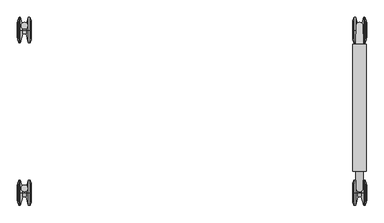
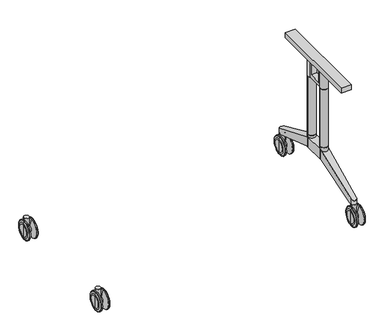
"""IFC4 building model written with IfcOpenShell, lengths in millimetres: furniture geometry."""

from ifc_helpers import new_model, si_unit, point, frame, frame_2d, origin, place, context, project, spatial, polyline, circle_curve, ellipse_curve, trimmed, segment, composite_curve, outline, extrude, source, transform, mapped, element, save
from ifc_brep_helpers import plane_surface, cylinder_surface, revolved_surface, advanced_brep


def furniture_c69c2a70(model_context):
    return source(origin(), model_context, "Body", "SolidModel", [
        advanced_brep(
        [(687.900346, 204.1135107, 49.9999988), (687.900346, 204.1135107, 19.8683152), (687.900346, 204.1135107, 80.1316828), (632.9003238, 204.1135107, 19.8683152), (632.9003238, 204.1135107, 49.9999988), (632.9003238, 204.1135107, 80.1316828), (637.2165382, 204.1135107, 2.051318), (634.4398166, 204.1135107, 10.381507), (634.4398166, 204.1135107, 89.6184911), (637.2165382, 204.1135107, 97.9486801), (644.900318, 204.1135107, -1.2e-06), (640.0625889, 204.1135107, -1.2e-06), (640.0625889, 204.1135107, 99.9999992), (644.900318, 204.1135107, 99.9999992), (652.9003021, 204.1135107, 35.0000003), (652.9003021, 204.1135107, 64.9999978), (667.9003676, 204.1135107, 35.0000003), (667.9003676, 204.1135107, 64.9999978), (675.9003517, 204.1135107, -1.2e-06), (675.9003517, 204.1135107, 99.9999992), (680.7380808, 204.1135107, -1.2e-06), (680.7380808, 204.1135107, 99.9999992), (686.3608532, 204.1135107, 10.381507), (683.5841316, 204.1135107, 2.051318), (683.5841316, 204.1135107, 97.9486801), (686.3608532, 204.1135107, 89.6184911)],
        [
            (0, 1),
            (1, 2, circle_curve(frame((687.900346, 204.1135107, 49.999999), z_axis=(1.0, 0.0, 0.0), x_axis=(0.0, 0.0, 1.0)), 30.1316838)),
            (2, 0),
            (2, 1, circle_curve(frame((687.900346, 204.1135107, 49.999999), z_axis=(1.0, 0.0, 0.0), x_axis=(0.0, 0.0, 1.0)), 30.1316838)),
            (3, 4),
            (4, 5),
            (5, 3, circle_curve(frame((632.9003238, 204.1135107, 49.999999), z_axis=(-1.0, 0.0, 0.0), x_axis=(0.0, 0.0, 1.0)), 30.1316838)),
            (3, 5, circle_curve(frame((632.9003238, 204.1135107, 49.999999), z_axis=(-1.0, 0.0, 0.0), x_axis=(0.0, 0.0, 1.0)), 30.1316838)),
            (6, 7),
            (7, 8, circle_curve(frame((634.4398166, 204.1135107, 49.999999), z_axis=(1.0, 0.0, 0.0), x_axis=(0.0, 0.0, 1.0)), 39.618492)),
            (8, 9),
            (9, 6, circle_curve(frame((637.2165382, 204.1135107, 49.999999), z_axis=(-1.0, 0.0, 0.0), x_axis=(0.0, 0.0, 1.0)), 47.948681)),
            (8, 7, circle_curve(frame((634.4398166, 204.1135107, 49.999999), z_axis=(1.0, 0.0, 0.0), x_axis=(0.0, 0.0, 1.0)), 39.618492)),
            (6, 9, circle_curve(frame((637.2165382, 204.1135107, 49.999999), z_axis=(-1.0, 0.0, 0.0), x_axis=(0.0, 0.0, 1.0)), 47.948681)),
            (10, 11),
            (11, 12, circle_curve(frame((640.0625889, 204.1135107, 49.999999), z_axis=(1.0, 0.0, 0.0), x_axis=(0.0, 0.0, 1.0)), 50.0000002)),
            (12, 13),
            (13, 10, circle_curve(frame((644.900318, 204.1135107, 49.999999), z_axis=(-1.0, 0.0, 0.0), x_axis=(0.0, 0.0, 1.0)), 50.0000002)),
            (12, 11, circle_curve(frame((640.0625889, 204.1135107, 49.999999), z_axis=(1.0, 0.0, 0.0), x_axis=(0.0, 0.0, 1.0)), 50.0000002)),
            (10, 13, circle_curve(frame((644.900318, 204.1135107, 49.999999), z_axis=(-1.0, 0.0, 0.0), x_axis=(0.0, 0.0, 1.0)), 50.0000002)),
            (14, 10),
            (13, 15),
            (15, 14, circle_curve(frame((652.9003021, 204.1135107, 49.999999), z_axis=(-1.0, 0.0, 0.0), x_axis=(0.0, 0.0, 1.0)), 14.9999987)),
            (14, 15, circle_curve(frame((652.9003021, 204.1135107, 49.999999), z_axis=(-1.0, 0.0, 0.0), x_axis=(0.0, 0.0, 1.0)), 14.9999987)),
            (16, 14),
            (15, 17),
            (17, 16, circle_curve(frame((667.9003676, 204.1135107, 49.999999), z_axis=(-1.0, 0.0, 0.0), x_axis=(0.0, 0.0, 1.0)), 14.9999987)),
            (16, 17, circle_curve(frame((667.9003676, 204.1135107, 49.999999), z_axis=(-1.0, 0.0, 0.0), x_axis=(0.0, 0.0, 1.0)), 14.9999987)),
            (18, 16),
            (17, 19),
            (19, 18, circle_curve(frame((675.9003517, 204.1135107, 49.999999), z_axis=(-1.0, 0.0, 0.0), x_axis=(0.0, 0.0, 1.0)), 50.0000002)),
            (18, 19, circle_curve(frame((675.9003517, 204.1135107, 49.999999), z_axis=(-1.0, 0.0, 0.0), x_axis=(0.0, 0.0, 1.0)), 50.0000002)),
            (20, 18),
            (19, 21),
            (21, 20, circle_curve(frame((680.7380808, 204.1135107, 49.999999), z_axis=(-1.0, 0.0, 0.0), x_axis=(0.0, 0.0, 1.0)), 50.0000002)),
            (20, 21, circle_curve(frame((680.7380808, 204.1135107, 49.999999), z_axis=(-1.0, 0.0, 0.0), x_axis=(0.0, 0.0, 1.0)), 50.0000002)),
            (22, 23),
            (23, 24, circle_curve(frame((683.5841316, 204.1135107, 49.999999), z_axis=(1.0, 0.0, 0.0), x_axis=(0.0, 0.0, 1.0)), 47.948681)),
            (24, 25),
            (25, 22, circle_curve(frame((686.3608532, 204.1135107, 49.999999), z_axis=(-1.0, 0.0, 0.0), x_axis=(0.0, 0.0, 1.0)), 39.618492)),
            (24, 23, circle_curve(frame((683.5841316, 204.1135107, 49.999999), z_axis=(1.0, 0.0, 0.0), x_axis=(0.0, 0.0, 1.0)), 47.948681)),
            (22, 25, circle_curve(frame((686.3608532, 204.1135107, 49.999999), z_axis=(-1.0, 0.0, 0.0), x_axis=(0.0, 0.0, 1.0)), 39.618492)),
            (7, 3, circle_curve(frame((662.9003238, 204.1135107, 19.8683152), z_axis=(0.0, 1.0000000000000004, 0.0), x_axis=(-1.0000000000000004, 0.0, 0.0)), 30.0)),
            (5, 8, circle_curve(frame((662.9003238, 204.1135107, 80.1316828), z_axis=(0.0, 1.0000000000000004, 0.0), x_axis=(-1.0000000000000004, 0.0, 0.0)), 30.0)),
            (11, 6, circle_curve(frame((640.0625889, 204.1135107, 2.9999988), z_axis=(0.0, 1.0000000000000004, 0.0), x_axis=(-1.0000000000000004, 0.0, 0.0)), 3.0)),
            (9, 12, circle_curve(frame((640.0625889, 204.1135107, 96.9999992), z_axis=(0.0, 1.0000000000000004, 0.0), x_axis=(-1.0000000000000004, 0.0, 0.0)), 3.0)),
            (23, 20, circle_curve(frame((680.7380808, 204.1135107, 2.9999988), z_axis=(0.0, 1.0000000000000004, 0.0), x_axis=(-1.0000000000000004, 0.0, 0.0)), 3.0)),
            (21, 24, circle_curve(frame((680.7380808, 204.1135107, 96.9999992), z_axis=(0.0, 1.0000000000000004, 0.0), x_axis=(-1.0000000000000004, 0.0, 0.0)), 3.0)),
            (1, 22, circle_curve(frame((657.900346, 204.1135107, 19.8683152), z_axis=(0.0, 1.0000000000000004, 0.0), x_axis=(-1.0000000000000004, 0.0, 0.0)), 30.0)),
            (25, 2, circle_curve(frame((657.900346, 204.1135107, 80.1316828), z_axis=(0.0, 1.0000000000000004, 0.0), x_axis=(-1.0000000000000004, 0.0, 0.0)), 30.0)),
        ],
        [
            plane_surface(frame((687.900346, 204.1135107, 49.999999), z_axis=(1.0, 0.0, 0.0), x_axis=(0.0, 0.0, 1.0))),
            plane_surface(frame((632.9003238, 204.1135107, 49.999999), z_axis=(-1.0, 0.0, 0.0), x_axis=(0.0, 0.0, 1.0))),
            revolved_surface(polyline([(634.4398166, 204.1135107, 89.6184911), (637.2165382, 204.1135107, 97.9486801)]), (699.4660385, 204.1135107, 49.999999), (1.0000000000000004, 0.0, 0.0)),
            cylinder_surface(frame((699.4660385, 204.1135107, 49.999999), z_axis=(1.0000000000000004, 0.0, 0.0), x_axis=(0.0, 0.0, 1.0)), 50.0000002),
            revolved_surface(polyline([(644.900318, 204.1135107, 99.9999992), (652.9003021, 204.1135107, 64.9999978)]), (699.4660385, 204.1135107, 49.999999), (1.0000000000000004, 0.0, 0.0)),
            cylinder_surface(frame((699.4660385, 204.1135107, 49.999999), z_axis=(1.0000000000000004, 0.0, 0.0), x_axis=(0.0, 0.0, 1.0)), 14.9999987),
            revolved_surface(polyline([(667.9003676, 204.1135107, 64.9999978), (675.9003517, 204.1135107, 99.9999992)]), (699.4660385, 204.1135107, 49.999999), (1.0000000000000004, 0.0, 0.0)),
            revolved_surface(polyline([(683.5841316, 204.1135107, 97.9486801), (686.3608532, 204.1135107, 89.6184911)]), (699.4660385, 204.1135107, 49.999999), (1.0000000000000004, 0.0, 0.0)),
            revolved_surface(trimmed(ellipse_curve(frame((662.9003238, 204.1135107, 80.1316828), z_axis=(0.0, 1.0000000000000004, 0.0), x_axis=(-1.0000000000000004, 0.0, 0.0)), 30.0, 30.0), [point((632.9003238, 204.1135107, 80.1316828))], [point((634.4398166, 204.1135107, 89.6184911))], True, "CARTESIAN"), (699.4660385, 204.1135107, 49.999999), (1.0000000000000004, 0.0, 0.0)),
            revolved_surface(trimmed(ellipse_curve(frame((640.0625889, 204.1135107, 96.9999992), z_axis=(0.0, 1.0000000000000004, 0.0), x_axis=(-1.0000000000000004, 0.0, 0.0)), 3.0, 3.0), [point((637.2165382, 204.1135107, 97.9486801))], [point((640.0625889, 204.1135107, 99.9999992))], True, "CARTESIAN"), (699.4660385, 204.1135107, 49.999999), (1.0000000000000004, 0.0, 0.0)),
            revolved_surface(trimmed(ellipse_curve(frame((680.7380808, 204.1135107, 96.9999992), z_axis=(0.0, 1.0000000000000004, 0.0), x_axis=(-1.0000000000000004, 0.0, 0.0)), 3.0, 3.0), [point((680.7380808, 204.1135107, 99.9999992))], [point((683.5841316, 204.1135107, 97.9486801))], True, "CARTESIAN"), (699.4660385, 204.1135107, 49.999999), (1.0000000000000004, 0.0, 0.0)),
            revolved_surface(trimmed(ellipse_curve(frame((657.900346, 204.1135107, 80.1316828), z_axis=(0.0, 1.0000000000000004, 0.0), x_axis=(-1.0000000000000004, 0.0, 0.0)), 30.0, 30.0), [point((686.3608532, 204.1135107, 89.6184911))], [point((687.900346, 204.1135107, 80.1316828))], True, "CARTESIAN"), (699.4660385, 204.1135107, 49.999999), (1.0000000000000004, 0.0, 0.0)),
        ],
        [
            (0, [[1, 2, 3]]),
            (0, [[-3, 4, -1]]),
            (1, [[5, 6, 7]]),
            (1, [[-6, -5, 8]]),
            (2, [[9, 10, 11, 12]]),
            (2, [[-11, 13, -9, 14]]),
            (3, [[15, 16, 17, 18]]),
            (3, [[-17, 19, -15, 20]]),
            (4, [[21, -18, 22, 23]]),
            (4, [[-22, -20, -21, 24]]),
            (5, [[25, -23, 26, 27]]),
            (5, [[-26, -24, -25, 28]]),
            (6, [[29, -27, 30, 31]]),
            (6, [[-30, -28, -29, 32]]),
            (3, [[33, -31, 34, 35]]),
            (3, [[-34, -32, -33, 36]]),
            (7, [[37, 38, 39, 40]]),
            (7, [[-39, 41, -37, 42]]),
            (8, [[43, -7, 44, -10]]),
            (8, [[-44, -8, -43, -13]]),
            (9, [[45, -12, 46, -16]]),
            (9, [[-46, -14, -45, -19]]),
            (10, [[47, -35, 48, -38]]),
            (10, [[-48, -36, -47, -41]]),
            (11, [[49, -40, 50, -2]]),
            (11, [[-50, -42, -49, -4]]),
        ],
    ),
        extrude(outline(composite_curve([segment(trimmed(circle_curve(frame_2d((660.4003349, 221.5135103)), 13.1), [point((673.5003349, 221.5135103))], [point((647.3003349, 221.5135103))], False, "CARTESIAN"), True, "CONTINUOUS"), segment(trimmed(circle_curve(frame_2d((660.4003349, 221.5135103)), 13.1), [point((647.3003349, 221.5135103))], [point((673.5003349, 221.5135103))], False, "CARTESIAN"), True, "CONTINUOUS")], self_intersect=False)), frame((0.0, 0.0, 50.0), z_axis=(0.0, 0.0, 1.0), x_axis=(1.0, 0.0, 0.0)), (0.0, 0.0, 1.0), 55.0),
        advanced_brep(
        [(632.9003238, -436.9185854, 49.9999992), (632.9003238, -436.9185854, 80.1316828), (632.9003238, -436.9185854, 19.8683152), (687.900346, -436.9185854, 19.8683152), (687.900346, -436.9185854, 80.1316828), (687.900346, -436.9185854, 49.9999992), (683.5841316, -436.9185854, 2.051318), (683.5841316, -436.9185854, 97.9486801), (686.3608532, -436.9185854, 89.6184911), (686.3608532, -436.9185854, 10.381507), (675.9003517, -436.9185854, -1.2e-06), (675.9003517, -436.9185854, 99.9999992), (680.7380808, -436.9185854, 99.9999992), (680.7380808, -436.9185854, -1.2e-06), (667.9003676, -436.9185854, 35.0000003), (667.9003676, -436.9185854, 64.9999978), (652.9003021, -436.9185854, 35.0000003), (652.9003021, -436.9185854, 64.9999978), (644.900318, -436.9185854, -1.2e-06), (644.900318, -436.9185854, 99.9999992), (640.0625889, -436.9185854, -1.2e-06), (640.0625889, -436.9185854, 99.9999992), (634.4398166, -436.9185854, 10.381507), (634.4398166, -436.9185854, 89.6184911), (637.2165382, -436.9185854, 97.9486801), (637.2165382, -436.9185854, 2.051318)],
        [
            (0, 1),
            (1, 2, circle_curve(frame((632.9003238, -436.9185854, 49.999999), z_axis=(-1.0, 0.0, 0.0), x_axis=(0.0, 0.0, 1.0)), 30.1316838)),
            (2, 0),
            (2, 1, circle_curve(frame((632.9003238, -436.9185854, 49.999999), z_axis=(-1.0, 0.0, 0.0), x_axis=(0.0, 0.0, 1.0)), 30.1316838)),
            (3, 4, circle_curve(frame((687.900346, -436.9185854, 49.999999), z_axis=(1.0, 0.0, 0.0), x_axis=(0.0, 0.0, 1.0)), 30.1316838)),
            (4, 5),
            (5, 3),
            (4, 3, circle_curve(frame((687.900346, -436.9185854, 49.999999), z_axis=(1.0, 0.0, 0.0), x_axis=(0.0, 0.0, 1.0)), 30.1316838)),
            (6, 7, circle_curve(frame((683.5841316, -436.9185854, 49.999999), z_axis=(1.0, 0.0, 0.0), x_axis=(0.0, 0.0, 1.0)), 47.948681)),
            (7, 8),
            (8, 9, circle_curve(frame((686.3608532, -436.9185854, 49.999999), z_axis=(-1.0, 0.0, 0.0), x_axis=(0.0, 0.0, 1.0)), 39.618492)),
            (9, 6),
            (7, 6, circle_curve(frame((683.5841316, -436.9185854, 49.999999), z_axis=(1.0, 0.0, 0.0), x_axis=(0.0, 0.0, 1.0)), 47.948681)),
            (9, 8, circle_curve(frame((686.3608532, -436.9185854, 49.999999), z_axis=(-1.0, 0.0, 0.0), x_axis=(0.0, 0.0, 1.0)), 39.618492)),
            (10, 11, circle_curve(frame((675.9003517, -436.9185854, 49.999999), z_axis=(1.0, 0.0, 0.0), x_axis=(0.0, 0.0, 1.0)), 50.0000002)),
            (11, 12),
            (12, 13, circle_curve(frame((680.7380808, -436.9185854, 49.999999), z_axis=(-1.0, 0.0, 0.0), x_axis=(0.0, 0.0, 1.0)), 50.0000002)),
            (13, 10),
            (11, 10, circle_curve(frame((675.9003517, -436.9185854, 49.999999), z_axis=(1.0, 0.0, 0.0), x_axis=(0.0, 0.0, 1.0)), 50.0000002)),
            (13, 12, circle_curve(frame((680.7380808, -436.9185854, 49.999999), z_axis=(-1.0, 0.0, 0.0), x_axis=(0.0, 0.0, 1.0)), 50.0000002)),
            (14, 15, circle_curve(frame((667.9003676, -436.9185854, 49.999999), z_axis=(1.0, 0.0, 0.0), x_axis=(0.0, 0.0, 1.0)), 14.9999987)),
            (15, 11),
            (10, 14),
            (15, 14, circle_curve(frame((667.9003676, -436.9185854, 49.999999), z_axis=(1.0, 0.0, 0.0), x_axis=(0.0, 0.0, 1.0)), 14.9999987)),
            (16, 17, circle_curve(frame((652.9003021, -436.9185854, 49.999999), z_axis=(1.0, 0.0, 0.0), x_axis=(0.0, 0.0, 1.0)), 14.9999987)),
            (17, 15),
            (14, 16),
            (17, 16, circle_curve(frame((652.9003021, -436.9185854, 49.999999), z_axis=(1.0, 0.0, 0.0), x_axis=(0.0, 0.0, 1.0)), 14.9999987)),
            (18, 19, circle_curve(frame((644.900318, -436.9185854, 49.999999), z_axis=(1.0, 0.0, 0.0), x_axis=(0.0, 0.0, 1.0)), 50.0000002)),
            (19, 17),
            (16, 18),
            (19, 18, circle_curve(frame((644.900318, -436.9185854, 49.999999), z_axis=(1.0, 0.0, 0.0), x_axis=(0.0, 0.0, 1.0)), 50.0000002)),
            (20, 21, circle_curve(frame((640.0625889, -436.9185854, 49.999999), z_axis=(1.0, 0.0, 0.0), x_axis=(0.0, 0.0, 1.0)), 50.0000002)),
            (21, 19),
            (18, 20),
            (21, 20, circle_curve(frame((640.0625889, -436.9185854, 49.999999), z_axis=(1.0, 0.0, 0.0), x_axis=(0.0, 0.0, 1.0)), 50.0000002)),
            (22, 23, circle_curve(frame((634.4398166, -436.9185854, 49.999999), z_axis=(1.0, 0.0, 0.0), x_axis=(0.0, 0.0, 1.0)), 39.618492)),
            (23, 24),
            (24, 25, circle_curve(frame((637.2165382, -436.9185854, 49.999999), z_axis=(-1.0, 0.0, 0.0), x_axis=(0.0, 0.0, 1.0)), 47.948681)),
            (25, 22),
            (23, 22, circle_curve(frame((634.4398166, -436.9185854, 49.999999), z_axis=(1.0, 0.0, 0.0), x_axis=(0.0, 0.0, 1.0)), 39.618492)),
            (25, 24, circle_curve(frame((637.2165382, -436.9185854, 49.999999), z_axis=(-1.0, 0.0, 0.0), x_axis=(0.0, 0.0, 1.0)), 47.948681)),
            (8, 4, circle_curve(frame((657.900346, -436.9185854, 80.1316828), z_axis=(0.0, 1.0, 0.0), x_axis=(1.0, 0.0, 0.0)), 30.0)),
            (3, 9, circle_curve(frame((657.900346, -436.9185854, 19.8683152), z_axis=(0.0, 1.0, 0.0), x_axis=(1.0, 0.0, 0.0)), 30.0)),
            (12, 7, circle_curve(frame((680.7380808, -436.9185854, 96.9999992), z_axis=(0.0, 1.0, 0.0), x_axis=(1.0, 0.0, 0.0)), 3.0)),
            (6, 13, circle_curve(frame((680.7380808, -436.9185854, 2.9999988), z_axis=(0.0, 1.0, 0.0), x_axis=(1.0, 0.0, 0.0)), 3.0)),
            (24, 21, circle_curve(frame((640.0625889, -436.9185854, 96.9999992), z_axis=(0.0, 1.0, 0.0), x_axis=(1.0, 0.0, 0.0)), 3.0)),
            (20, 25, circle_curve(frame((640.0625889, -436.9185854, 2.9999988), z_axis=(0.0, 1.0, 0.0), x_axis=(1.0, 0.0, 0.0)), 3.0)),
            (1, 23, circle_curve(frame((662.9003238, -436.9185854, 80.1316828), z_axis=(0.0, 1.0, 0.0), x_axis=(1.0, 0.0, 0.0)), 30.0)),
            (22, 2, circle_curve(frame((662.9003238, -436.9185854, 19.8683152), z_axis=(0.0, 1.0, 0.0), x_axis=(1.0, 0.0, 0.0)), 30.0)),
        ],
        [
            plane_surface(frame((632.9003238, -436.9185854, 49.999999), z_axis=(-1.0, 0.0, 0.0), x_axis=(0.0, 0.0, 1.0))),
            plane_surface(frame((687.900346, -436.9185854, 49.999999), z_axis=(1.0, 0.0, 0.0), x_axis=(0.0, 0.0, 1.0))),
            revolved_surface(polyline([(686.3608532, -436.9185854, 89.6184911), (683.5841316, -436.9185854, 97.9486801)]), (621.3346312, -436.9185854, 49.999999), (-1.0, 0.0, 0.0)),
            cylinder_surface(frame((621.3346312, -436.9185854, 49.999999), z_axis=(-1.0, 0.0, 0.0), x_axis=(0.0, 0.0, 1.0)), 50.0000002),
            revolved_surface(polyline([(675.9003517, -436.9185854, 99.9999992), (667.9003676, -436.9185854, 64.9999978)]), (621.3346312, -436.9185854, 49.999999), (-1.0, 0.0, 0.0)),
            cylinder_surface(frame((621.3346312, -436.9185854, 49.999999), z_axis=(-1.0, 0.0, 0.0), x_axis=(0.0, 0.0, 1.0)), 14.9999987),
            revolved_surface(polyline([(652.9003021, -436.9185854, 64.9999978), (644.900318, -436.9185854, 99.9999992)]), (621.3346312, -436.9185854, 49.999999), (-1.0, 0.0, 0.0)),
            revolved_surface(polyline([(637.2165382, -436.9185854, 97.9486801), (634.4398166, -436.9185854, 89.6184911)]), (621.3346312, -436.9185854, 49.999999), (-1.0, 0.0, 0.0)),
            revolved_surface(trimmed(ellipse_curve(frame((657.900346, -436.9185854, 80.1316828), z_axis=(0.0, -1.0, 0.0), x_axis=(1.0, 0.0, 0.0)), 30.0, 30.0), [point((687.900346, -436.9185854, 80.1316828))], [point((686.3608532, -436.9185854, 89.6184911))], True, "CARTESIAN"), (621.3346312, -436.9185854, 49.999999), (-1.0, 0.0, 0.0)),
            revolved_surface(trimmed(ellipse_curve(frame((680.7380808, -436.9185854, 96.9999992), z_axis=(0.0, -1.0, 0.0), x_axis=(1.0, 0.0, 0.0)), 3.0, 3.0), [point((683.5841316, -436.9185854, 97.9486801))], [point((680.7380808, -436.9185854, 99.9999992))], True, "CARTESIAN"), (621.3346312, -436.9185854, 49.999999), (-1.0, 0.0, 0.0)),
            revolved_surface(trimmed(ellipse_curve(frame((640.0625889, -436.9185854, 96.9999992), z_axis=(0.0, -1.0, 0.0), x_axis=(1.0, 0.0, 0.0)), 3.0, 3.0), [point((640.0625889, -436.9185854, 99.9999992))], [point((637.2165382, -436.9185854, 97.9486801))], True, "CARTESIAN"), (621.3346312, -436.9185854, 49.999999), (-1.0, 0.0, 0.0)),
            revolved_surface(trimmed(ellipse_curve(frame((662.9003238, -436.9185854, 80.1316828), z_axis=(0.0, -1.0, 0.0), x_axis=(1.0, 0.0, 0.0)), 30.0, 30.0), [point((634.4398166, -436.9185854, 89.6184911))], [point((632.9003238, -436.9185854, 80.1316828))], True, "CARTESIAN"), (621.3346312, -436.9185854, 49.999999), (-1.0, 0.0, 0.0)),
        ],
        [
            (0, [[1, 2, 3]]),
            (0, [[-3, 4, -1]]),
            (1, [[5, 6, 7]]),
            (1, [[8, -7, -6]]),
            (2, [[9, 10, 11, 12]]),
            (2, [[13, -12, 14, -10]]),
            (3, [[15, 16, 17, 18]]),
            (3, [[19, -18, 20, -16]]),
            (4, [[21, 22, -15, 23]]),
            (4, [[24, -23, -19, -22]]),
            (5, [[25, 26, -21, 27]]),
            (5, [[28, -27, -24, -26]]),
            (6, [[29, 30, -25, 31]]),
            (6, [[32, -31, -28, -30]]),
            (3, [[33, 34, -29, 35]]),
            (3, [[36, -35, -32, -34]]),
            (7, [[37, 38, 39, 40]]),
            (7, [[41, -40, 42, -38]]),
            (8, [[-11, 43, -5, 44]]),
            (8, [[-14, -44, -8, -43]]),
            (9, [[-17, 45, -9, 46]]),
            (9, [[-20, -46, -13, -45]]),
            (10, [[-39, 47, -33, 48]]),
            (10, [[-42, -48, -36, -47]]),
            (11, [[-2, 49, -37, 50]]),
            (11, [[-4, -50, -41, -49]]),
        ],
    ),
        extrude(outline(composite_curve([segment(trimmed(circle_curve(frame_2d((660.4003349, -419.5185858)), 13.1), [point((647.3003349, -419.5185858))], [point((673.5003349, -419.5185858))], False, "CARTESIAN"), True, "CONTINUOUS"), segment(trimmed(circle_curve(frame_2d((660.4003349, -419.5185858)), 13.1), [point((673.5003349, -419.5185858))], [point((647.3003349, -419.5185858))], False, "CARTESIAN"), True, "CONTINUOUS")], self_intersect=False)), frame((0.0, 0.0, 50.0), z_axis=(0.0, 0.0, 1.0), x_axis=(1.0, 0.0, 0.0)), (0.0, 0.0, 1.0), 55.0),
        extrude(outline(composite_curve([segment(trimmed(circle_curve(frame_2d((660.4, -154.0488451)), 20.0), [point((640.4, -154.0488451))], [point((680.4, -154.0488451))], False, "CARTESIAN"), True, "CONTINUOUS"), segment(trimmed(circle_curve(frame_2d((660.4, -154.0488451)), 20.0), [point((680.4, -154.0488451))], [point((640.4, -154.0488451))], False, "CARTESIAN"), True, "CONTINUOUS")], self_intersect=False)), frame((0.0, 0.0, 193.3080085), z_axis=(0.0, 0.0, 1.0), x_axis=(1.0, 0.0, 0.0)), (0.0, 0.0, 1.0), 68.8536941),
        extrude(outline(composite_curve([segment(trimmed(circle_curve(frame_2d((660.4, -44.0488461)), 20.0), [point((640.4, -44.0488461))], [point((680.4, -44.0488461))], False, "CARTESIAN"), True, "CONTINUOUS"), segment(trimmed(circle_curve(frame_2d((660.4, -44.0488461)), 20.0), [point((680.4, -44.0488461))], [point((640.4, -44.0488461))], False, "CARTESIAN"), True, "CONTINUOUS")], self_intersect=False)), frame((0.0, 0.0, 193.3080085), z_axis=(0.0, 0.0, 1.0), x_axis=(1.0, 0.0, 0.0)), (0.0, 0.0, 1.0), 68.8536941),
        extrude(outline(composite_curve([segment(trimmed(circle_curve(frame_2d((660.4, -154.0488451)), 20.0), [point((640.4, -154.0488451))], [point((680.4, -154.0488451))], False, "CARTESIAN"), True, "CONTINUOUS"), segment(trimmed(circle_curve(frame_2d((660.4, -154.0488451)), 20.0), [point((680.4, -154.0488451))], [point((640.4, -154.0488451))], False, "CARTESIAN"), True, "CONTINUOUS")], self_intersect=False)), frame((0.0, 0.0, 262.1617027), z_axis=(0.0, 0.0, 1.0), x_axis=(1.0, 0.0, 0.0)), (0.0, 0.0, 1.0), 318.0882973),
        extrude(outline(composite_curve([segment(trimmed(circle_curve(frame_2d((660.4, -44.0488461)), 20.0), [point((640.4, -44.0488461))], [point((680.4, -44.0488461))], False, "CARTESIAN"), True, "CONTINUOUS"), segment(trimmed(circle_curve(frame_2d((660.4, -44.0488461)), 20.0), [point((680.4, -44.0488461))], [point((640.4, -44.0488461))], False, "CARTESIAN"), True, "CONTINUOUS")], self_intersect=False)), frame((0.0, 0.0, 262.1617027), z_axis=(0.0, 0.0, 1.0), x_axis=(1.0, 0.0, 0.0)), (0.0, 0.0, 1.0), 318.0882973),
        extrude(outline(polyline([(686.4000118, 147.9511612), (686.4000118, -352.0488426), (634.3999882, -352.0488426), (634.3999882, 147.9511612), (686.4000118, 147.9511612)])), frame((0.0, 0.0, 676.2500168), z_axis=(0.0, 0.0, 1.0), x_axis=(1.0, 0.0, 0.0)), (0.0, 0.0, 1.0), 27.9999624),
        advanced_brep(
        [(645.4001238, -140.8200278, 676.2500168), (675.4001095, -140.8201331, 676.2500168), (675.4001095, -134.0488456, 676.2500168), (645.4001238, -134.0488456, 676.2500168), (675.4001095, -57.2775581, 676.2500168), (645.4001238, -57.2776634, 676.2500168), (645.4001238, -64.0488456, 676.2500168), (675.4001095, -64.0488456, 676.2500168), (645.4001238, -57.2776634, 580.25), (675.4001095, -57.2775581, 580.25), (675.4001095, -140.8201331, 580.25), (645.4001238, -140.8200278, 580.25), (645.4001238, -134.0488456, 598.2500176), (645.4001238, -64.0488456, 598.2500176), (675.4001095, -64.0488456, 598.2500176), (675.4001095, -134.0488456, 598.2500176)],
        [
            (0, 1, circle_curve(frame((660.4000702, -154.0488451, 676.2500168), z_axis=(0.0, 0.0, 1.0), x_axis=(1.0, 0.0, 0.0)), 20.0)),
            (1, 2),
            (2, 3),
            (3, 0),
            (4, 5, circle_curve(frame((660.4000702, -44.0488461, 676.2500168), z_axis=(0.0, 0.0, 1.0), x_axis=(1.0, 0.0, 0.0)), 20.0)),
            (5, 6),
            (6, 7),
            (7, 4),
            (8, 9, circle_curve(frame((660.4000702, -44.0488461, 580.25), z_axis=(0.0, 0.0, -1.0), x_axis=(1.0, 0.0, 0.0)), 20.0)),
            (9, 10),
            (10, 11, circle_curve(frame((660.4000702, -154.0488451, 580.25), z_axis=(0.0, 0.0, -1.0), x_axis=(1.0, 0.0, 0.0)), 20.0)),
            (11, 8),
            (11, 0),
            (3, 12),
            (12, 13),
            (13, 6),
            (5, 8),
            (10, 1),
            (9, 4),
            (7, 14),
            (14, 15),
            (15, 2),
            (15, 12),
            (14, 13),
        ],
        [
            plane_surface(frame((645.4001238, -140.8200278, 676.2500168), z_axis=(0.0, 0.0, 1.0), x_axis=(0.0, -1.0, 0.0))),
            plane_surface(frame((645.4001238, -140.8200278, 580.25), z_axis=(0.0, 0.0, -1.0), x_axis=(0.0, 1.0, 0.0))),
            plane_surface(frame((645.4001238, -57.2776634, 676.2500168), z_axis=(-1.0, 0.0, 0.0), x_axis=(0.0, 0.0, -1.0))),
            cylinder_surface(frame((660.4000702, -154.0488451, 580.25), z_axis=(0.0, 0.0, 1.0), x_axis=(1.0, 0.0, 0.0)), 20.0),
            plane_surface(frame((675.4001095, -140.8201331, 676.2500168), z_axis=(1.0, 0.0, 0.0), x_axis=(0.0, 0.0, -1.0))),
            cylinder_surface(frame((660.4000702, -44.0488461, 580.25), z_axis=(0.0, 0.0, 1.0), x_axis=(1.0, 0.0, 0.0)), 20.0),
            plane_surface(frame((675.4001095, -134.0488456, 676.2500168), z_axis=(0.0, 1.0, 0.0), x_axis=(-1.0, 0.0, 0.0))),
            plane_surface(frame((675.4001095, -134.0488456, 598.2500176), z_axis=(0.0, 0.0, 1.0), x_axis=(-1.0, 0.0, 0.0))),
            plane_surface(frame((675.4001095, -64.0488456, 598.2500176), z_axis=(0.0, -1.0, 0.0), x_axis=(-1.0, 0.0, 0.0))),
        ],
        [
            (0, [[1, 2, 3, 4]]),
            (0, [[5, 6, 7, 8]]),
            (1, [[9, 10, 11, 12]]),
            (2, [[-12, 13, -4, 14, 15, 16, -6, 17]]),
            (3, [[-1, -13, -11, 18]]),
            (4, [[-10, 19, -8, 20, 21, 22, -2, -18]]),
            (5, [[-5, -19, -9, -17]]),
            (6, [[23, -14, -3, -22]]),
            (7, [[-23, -21, 24, -15]]),
            (8, [[-24, -20, -7, -16]]),
        ],
    ),
        advanced_brep(
        [(680.3999818, -154.0488451, 248.3080085), (680.3999818, -44.0488461, 248.3080085), (640.3999818, -44.0488461, 248.3080085), (640.3999818, -154.0488451, 248.3080085), (640.3999818, -44.0488461, 193.3080085), (640.3999818, -154.0488451, 193.3080085), (680.3999818, -154.0488451, 193.3080085), (680.3999818, -44.0488461, 193.3080085), (673.8728951, 208.4135103, 105.0), (646.927103, 208.4135103, 105.0), (647.2737706, 221.8222582, 105.0), (673.5262294, 221.8222564, 105.0), (647.2737706, 221.8222582, 133.4205559), (673.5262294, 221.8222564, 133.4205567), (680.1999588, -36.3121196, 193.3080085), (640.6000059, -36.3121196, 193.3080085), (673.5262294, -419.9199475, 133.4205567), (647.2737706, -419.9199493, 133.4205559), (673.5262294, -419.9199475, 105.0), (673.8728951, -406.5112014, 105.0), (680.1999588, -161.7855715, 193.3080085), (647.2737706, -419.9199493, 105.0), (640.6000059, -161.7855715, 193.3080085), (646.927103, -406.5112014, 105.0)],
        [
            (0, 1),
            (1, 2),
            (2, 3),
            (3, 0),
            (2, 4),
            (4, 5),
            (5, 3),
            (0, 6),
            (6, 7),
            (7, 1),
            (8, 9),
            (9, 10),
            (10, 11, circle_curve(frame((660.4, 221.4828948, 105.0), z_axis=(0.0, 0.0, -1.0), x_axis=(1.0, 0.0, 0.0)), 13.1306156)),
            (11, 8),
            (12, 2),
            (1, 13),
            (13, 12, ellipse_curve(frame((660.4, 221.4828948, 133.5672007), z_axis=(0.0, 0.3966672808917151, 0.9179624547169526), x_axis=(0.0, 0.9179624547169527, -0.39666728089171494)), 14.3040878, 13.1306156)),
            (8, 14),
            (14, 15),
            (15, 9),
            (16, 0),
            (3, 17),
            (17, 16, ellipse_curve(frame((660.4, -419.5805859, 133.5672007), z_axis=(0.0, -0.3966672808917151, 0.9179624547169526), x_axis=(0.0, -0.9179624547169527, -0.39666728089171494)), 14.3040878, 13.1306156)),
            (16, 18),
            (18, 19),
            (19, 20),
            (20, 6),
            (17, 21),
            (21, 18, circle_curve(frame((660.4, -419.5805859, 105.0), z_axis=(0.0, 0.0, 1.0), x_axis=(1.0, 0.0, 0.0)), 13.1306156)),
            (5, 22),
            (22, 23),
            (23, 21),
            (12, 10),
            (15, 4),
            (13, 11),
            (7, 14),
            (23, 19),
            (22, 20),
        ],
        [
            plane_surface(frame((680.3999818, -44.0488461, 248.3080085), z_axis=(0.0, 0.0, 1.0), x_axis=(0.0, 1.0, 0.0))),
            plane_surface(frame((640.3999818, -44.0488461, 248.3080085), z_axis=(-1.0, 0.0, 0.0), x_axis=(0.0, 0.0, -1.0))),
            plane_surface(frame((680.3999818, -154.0488451, 248.3080085), z_axis=(1.0, 0.0, 0.0), x_axis=(0.0, 0.0, -1.0))),
            plane_surface(frame((681.7794585, 208.4135103, 105.0), z_axis=(0.0, 0.0, -1.0), x_axis=(-1.0, 0.0, 0.0))),
            plane_surface(frame((681.7794585, 235.9511544, 127.3152182), z_axis=(0.0, 0.3966672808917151, 0.9179624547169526), x_axis=(-1.0, 0.0, 0.0))),
            plane_surface(frame((681.7794585, -36.3121196, 193.3080085), z_axis=(0.0, -0.3394229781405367, -0.9406338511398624), x_axis=(-1.0, 0.0, 0.0))),
            plane_surface(frame((681.7794585, -154.0488451, 248.3080085), z_axis=(0.0, -0.3966672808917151, 0.9179624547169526), x_axis=(-1.0, 0.0, 0.0))),
            plane_surface(frame((680.3999818, -154.0488451, 249.0000084), z_axis=(0.9996659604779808, -0.025845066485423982, 0.0), x_axis=(0.0, 0.0, -1.0))),
            cylinder_surface(frame((660.4, -419.5805859, 90.0000025), z_axis=(0.0, 0.0, -1.0), x_axis=(1.0, 0.0, 0.0)), 13.1306156),
            plane_surface(frame((647.2737706, -419.9199493, 249.0000084), z_axis=(-0.9996659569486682, -0.025845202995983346, 0.0), x_axis=(0.0, 0.0, -1.0))),
            plane_surface(frame((640.3999818, -44.0488461, 249.0000084), z_axis=(-0.9996659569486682, 0.025845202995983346, 0.0), x_axis=(0.0, 0.0, -1.0))),
            cylinder_surface(frame((660.4, 221.4828948, 0.0), z_axis=(0.0, 0.0, -1.0), x_axis=(1.0, 0.0, 0.0)), 13.1306156),
            plane_surface(frame((673.5262294, 221.8222564, 249.0000084), z_axis=(0.9996659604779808, 0.025845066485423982, 0.0), x_axis=(0.0, 0.0, -1.0))),
            plane_surface(frame((681.7794585, -434.0488456, 105.0), z_axis=(0.0, 0.0, -1.0), x_axis=(-1.0, 0.0, 0.0))),
            plane_surface(frame((681.7794585, -406.5112014, 105.0), z_axis=(0.0, 0.3394229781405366, -0.9406338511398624), x_axis=(-1.0, 0.0, 0.0))),
            plane_surface(frame((681.7794585, -44.0488461, 193.3080085), z_axis=(0.0, 0.0, -1.0), x_axis=(-1.0, 0.0, 0.0))),
        ],
        [
            (0, [[1, 2, 3, 4]]),
            (1, [[-3, 5, 6, 7]]),
            (2, [[-1, 8, 9, 10]]),
            (3, [[11, 12, 13, 14]]),
            (4, [[15, -2, 16, 17]]),
            (5, [[-11, 18, 19, 20]]),
            (6, [[21, -4, 22, 23]]),
            (7, [[24, 25, 26, 27, -8, -21]]),
            (8, [[-24, -23, 28, 29]]),
            (9, [[-28, -22, -7, 30, 31, 32]]),
            (10, [[33, -12, -20, 34, -5, -15]]),
            (11, [[-33, -17, 35, -13]]),
            (12, [[-35, -16, -10, 36, -18, -14]]),
            (13, [[37, -25, -29, -32]]),
            (14, [[-37, -31, 38, -26]]),
            (15, [[-19, -36, -9, -27, -38, -30, -6, -34]]),
        ],
    ),
        advanced_brep(
        [(-632.899654, 204.1135107, 49.9999988), (-632.899654, 204.1135107, 19.8683152), (-632.899654, 204.1135107, 80.1316828), (-687.8996762, 204.1135107, 19.8683152), (-687.8996762, 204.1135107, 49.9999988), (-687.8996762, 204.1135107, 80.1316828), (-683.5834618, 204.1135107, 2.051318), (-686.3601834, 204.1135107, 10.381507), (-686.3601834, 204.1135107, 89.6184911), (-683.5834618, 204.1135107, 97.9486801), (-675.899682, 204.1135107, -1.2e-06), (-680.7374111, 204.1135107, -1.2e-06), (-680.7374111, 204.1135107, 99.9999992), (-675.899682, 204.1135107, 99.9999992), (-667.8996979, 204.1135107, 35.0000003), (-667.8996979, 204.1135107, 64.9999978), (-652.8996324, 204.1135107, 35.0000003), (-652.8996324, 204.1135107, 64.9999978), (-644.8996483, 204.1135107, -1.2e-06), (-644.8996483, 204.1135107, 99.9999992), (-640.0619192, 204.1135107, -1.2e-06), (-640.0619192, 204.1135107, 99.9999992), (-634.4391468, 204.1135107, 10.381507), (-637.2158684, 204.1135107, 2.051318), (-637.2158684, 204.1135107, 97.9486801), (-634.4391468, 204.1135107, 89.6184911)],
        [
            (0, 1),
            (1, 2, circle_curve(frame((-632.899654, 204.1135107, 49.999999), z_axis=(1.0, 0.0, 0.0), x_axis=(0.0, 0.0, 1.0)), 30.1316838)),
            (2, 0),
            (2, 1, circle_curve(frame((-632.899654, 204.1135107, 49.999999), z_axis=(1.0, 0.0, 0.0), x_axis=(0.0, 0.0, 1.0)), 30.1316838)),
            (3, 4),
            (4, 5),
            (5, 3, circle_curve(frame((-687.8996762, 204.1135107, 49.999999), z_axis=(-1.0, 0.0, 0.0), x_axis=(0.0, 0.0, 1.0)), 30.1316838)),
            (3, 5, circle_curve(frame((-687.8996762, 204.1135107, 49.999999), z_axis=(-1.0, 0.0, 0.0), x_axis=(0.0, 0.0, 1.0)), 30.1316838)),
            (6, 7),
            (7, 8, circle_curve(frame((-686.3601834, 204.1135107, 49.999999), z_axis=(1.0, 0.0, 0.0), x_axis=(0.0, 0.0, 1.0)), 39.618492)),
            (8, 9),
            (9, 6, circle_curve(frame((-683.5834618, 204.1135107, 49.999999), z_axis=(-1.0, 0.0, 0.0), x_axis=(0.0, 0.0, 1.0)), 47.948681)),
            (8, 7, circle_curve(frame((-686.3601834, 204.1135107, 49.999999), z_axis=(1.0, 0.0, 0.0), x_axis=(0.0, 0.0, 1.0)), 39.618492)),
            (6, 9, circle_curve(frame((-683.5834618, 204.1135107, 49.999999), z_axis=(-1.0, 0.0, 0.0), x_axis=(0.0, 0.0, 1.0)), 47.948681)),
            (10, 11),
            (11, 12, circle_curve(frame((-680.7374111, 204.1135107, 49.999999), z_axis=(1.0, 0.0, 0.0), x_axis=(0.0, 0.0, 1.0)), 50.0000002)),
            (12, 13),
            (13, 10, circle_curve(frame((-675.899682, 204.1135107, 49.999999), z_axis=(-1.0, 0.0, 0.0), x_axis=(0.0, 0.0, 1.0)), 50.0000002)),
            (12, 11, circle_curve(frame((-680.7374111, 204.1135107, 49.999999), z_axis=(1.0, 0.0, 0.0), x_axis=(0.0, 0.0, 1.0)), 50.0000002)),
            (10, 13, circle_curve(frame((-675.899682, 204.1135107, 49.999999), z_axis=(-1.0, 0.0, 0.0), x_axis=(0.0, 0.0, 1.0)), 50.0000002)),
            (14, 10),
            (13, 15),
            (15, 14, circle_curve(frame((-667.8996979, 204.1135107, 49.999999), z_axis=(-1.0, 0.0, 0.0), x_axis=(0.0, 0.0, 1.0)), 14.9999987)),
            (14, 15, circle_curve(frame((-667.8996979, 204.1135107, 49.999999), z_axis=(-1.0, 0.0, 0.0), x_axis=(0.0, 0.0, 1.0)), 14.9999987)),
            (16, 14),
            (15, 17),
            (17, 16, circle_curve(frame((-652.8996324, 204.1135107, 49.999999), z_axis=(-1.0, 0.0, 0.0), x_axis=(0.0, 0.0, 1.0)), 14.9999987)),
            (16, 17, circle_curve(frame((-652.8996324, 204.1135107, 49.999999), z_axis=(-1.0, 0.0, 0.0), x_axis=(0.0, 0.0, 1.0)), 14.9999987)),
            (18, 16),
            (17, 19),
            (19, 18, circle_curve(frame((-644.8996483, 204.1135107, 49.999999), z_axis=(-1.0, 0.0, 0.0), x_axis=(0.0, 0.0, 1.0)), 50.0000002)),
            (18, 19, circle_curve(frame((-644.8996483, 204.1135107, 49.999999), z_axis=(-1.0, 0.0, 0.0), x_axis=(0.0, 0.0, 1.0)), 50.0000002)),
            (20, 18),
            (19, 21),
            (21, 20, circle_curve(frame((-640.0619192, 204.1135107, 49.999999), z_axis=(-1.0, 0.0, 0.0), x_axis=(0.0, 0.0, 1.0)), 50.0000002)),
            (20, 21, circle_curve(frame((-640.0619192, 204.1135107, 49.999999), z_axis=(-1.0, 0.0, 0.0), x_axis=(0.0, 0.0, 1.0)), 50.0000002)),
            (22, 23),
            (23, 24, circle_curve(frame((-637.2158684, 204.1135107, 49.999999), z_axis=(1.0, 0.0, 0.0), x_axis=(0.0, 0.0, 1.0)), 47.948681)),
            (24, 25),
            (25, 22, circle_curve(frame((-634.4391468, 204.1135107, 49.999999), z_axis=(-1.0, 0.0, 0.0), x_axis=(0.0, 0.0, 1.0)), 39.618492)),
            (24, 23, circle_curve(frame((-637.2158684, 204.1135107, 49.999999), z_axis=(1.0, 0.0, 0.0), x_axis=(0.0, 0.0, 1.0)), 47.948681)),
            (22, 25, circle_curve(frame((-634.4391468, 204.1135107, 49.999999), z_axis=(-1.0, 0.0, 0.0), x_axis=(0.0, 0.0, 1.0)), 39.618492)),
            (7, 3, circle_curve(frame((-657.8996762, 204.1135107, 19.8683152), z_axis=(0.0, 1.0000000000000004, 0.0), x_axis=(-1.0000000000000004, 0.0, 0.0)), 30.0)),
            (5, 8, circle_curve(frame((-657.8996762, 204.1135107, 80.1316828), z_axis=(0.0, 1.0000000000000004, 0.0), x_axis=(-1.0000000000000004, 0.0, 0.0)), 30.0)),
            (11, 6, circle_curve(frame((-680.7374111, 204.1135107, 2.9999988), z_axis=(0.0, 1.0000000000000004, 0.0), x_axis=(-1.0000000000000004, 0.0, 0.0)), 3.0)),
            (9, 12, circle_curve(frame((-680.7374111, 204.1135107, 96.9999992), z_axis=(0.0, 1.0000000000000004, 0.0), x_axis=(-1.0000000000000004, 0.0, 0.0)), 3.0)),
            (23, 20, circle_curve(frame((-640.0619192, 204.1135107, 2.9999988), z_axis=(0.0, 1.0000000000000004, 0.0), x_axis=(-1.0000000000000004, 0.0, 0.0)), 3.0)),
            (21, 24, circle_curve(frame((-640.0619192, 204.1135107, 96.9999992), z_axis=(0.0, 1.0000000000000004, 0.0), x_axis=(-1.0000000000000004, 0.0, 0.0)), 3.0)),
            (1, 22, circle_curve(frame((-662.899654, 204.1135107, 19.8683152), z_axis=(0.0, 1.0000000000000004, 0.0), x_axis=(-1.0000000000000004, 0.0, 0.0)), 30.0)),
            (25, 2, circle_curve(frame((-662.899654, 204.1135107, 80.1316828), z_axis=(0.0, 1.0000000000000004, 0.0), x_axis=(-1.0000000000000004, 0.0, 0.0)), 30.0)),
        ],
        [
            plane_surface(frame((-632.899654, 204.1135107, 49.999999), z_axis=(1.0, 0.0, 0.0), x_axis=(0.0, 0.0, 1.0))),
            plane_surface(frame((-687.8996762, 204.1135107, 49.999999), z_axis=(-1.0, 0.0, 0.0), x_axis=(0.0, 0.0, 1.0))),
            revolved_surface(polyline([(-686.3601834, 204.1135107, 89.6184911), (-683.5834618, 204.1135107, 97.9486801)]), (-621.3339615, 204.1135107, 49.999999), (1.0000000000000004, 0.0, 0.0)),
            cylinder_surface(frame((-621.3339615, 204.1135107, 49.999999), z_axis=(1.0000000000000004, 0.0, 0.0), x_axis=(0.0, 0.0, 1.0)), 50.0000002),
            revolved_surface(polyline([(-675.899682, 204.1135107, 99.9999992), (-667.8996979, 204.1135107, 64.9999978)]), (-621.3339615, 204.1135107, 49.999999), (1.0000000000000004, 0.0, 0.0)),
            cylinder_surface(frame((-621.3339615, 204.1135107, 49.999999), z_axis=(1.0000000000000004, 0.0, 0.0), x_axis=(0.0, 0.0, 1.0)), 14.9999987),
            revolved_surface(polyline([(-652.8996324, 204.1135107, 64.9999978), (-644.8996483, 204.1135107, 99.9999992)]), (-621.3339615, 204.1135107, 49.999999), (1.0000000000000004, 0.0, 0.0)),
            revolved_surface(polyline([(-637.2158684, 204.1135107, 97.9486801), (-634.4391468, 204.1135107, 89.6184911)]), (-621.3339615, 204.1135107, 49.999999), (1.0000000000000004, 0.0, 0.0)),
            revolved_surface(trimmed(ellipse_curve(frame((-657.8996762, 204.1135107, 80.1316828), z_axis=(0.0, 1.0000000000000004, 0.0), x_axis=(-1.0000000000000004, 0.0, 0.0)), 30.0, 30.0), [point((-687.8996762, 204.1135107, 80.1316828))], [point((-686.3601834, 204.1135107, 89.6184911))], True, "CARTESIAN"), (-621.3339615, 204.1135107, 49.999999), (1.0000000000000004, 0.0, 0.0)),
            revolved_surface(trimmed(ellipse_curve(frame((-680.7374111, 204.1135107, 96.9999992), z_axis=(0.0, 1.0000000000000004, 0.0), x_axis=(-1.0000000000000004, 0.0, 0.0)), 3.0, 3.0), [point((-683.5834618, 204.1135107, 97.9486801))], [point((-680.7374111, 204.1135107, 99.9999992))], True, "CARTESIAN"), (-621.3339615, 204.1135107, 49.999999), (1.0000000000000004, 0.0, 0.0)),
            revolved_surface(trimmed(ellipse_curve(frame((-640.0619192, 204.1135107, 96.9999992), z_axis=(0.0, 1.0000000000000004, 0.0), x_axis=(-1.0000000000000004, 0.0, 0.0)), 3.0, 3.0), [point((-640.0619192, 204.1135107, 99.9999992))], [point((-637.2158684, 204.1135107, 97.9486801))], True, "CARTESIAN"), (-621.3339615, 204.1135107, 49.999999), (1.0000000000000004, 0.0, 0.0)),
            revolved_surface(trimmed(ellipse_curve(frame((-662.899654, 204.1135107, 80.1316828), z_axis=(0.0, 1.0000000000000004, 0.0), x_axis=(-1.0000000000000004, 0.0, 0.0)), 30.0, 30.0), [point((-634.4391468, 204.1135107, 89.6184911))], [point((-632.899654, 204.1135107, 80.1316828))], True, "CARTESIAN"), (-621.3339615, 204.1135107, 49.999999), (1.0000000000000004, 0.0, 0.0)),
        ],
        [
            (0, [[1, 2, 3]]),
            (0, [[-3, 4, -1]]),
            (1, [[5, 6, 7]]),
            (1, [[-6, -5, 8]]),
            (2, [[9, 10, 11, 12]]),
            (2, [[-11, 13, -9, 14]]),
            (3, [[15, 16, 17, 18]]),
            (3, [[-17, 19, -15, 20]]),
            (4, [[21, -18, 22, 23]]),
            (4, [[-22, -20, -21, 24]]),
            (5, [[25, -23, 26, 27]]),
            (5, [[-26, -24, -25, 28]]),
            (6, [[29, -27, 30, 31]]),
            (6, [[-30, -28, -29, 32]]),
            (3, [[33, -31, 34, 35]]),
            (3, [[-34, -32, -33, 36]]),
            (7, [[37, 38, 39, 40]]),
            (7, [[-39, 41, -37, 42]]),
            (8, [[43, -7, 44, -10]]),
            (8, [[-44, -8, -43, -13]]),
            (9, [[45, -12, 46, -16]]),
            (9, [[-46, -14, -45, -19]]),
            (10, [[47, -35, 48, -38]]),
            (10, [[-48, -36, -47, -41]]),
            (11, [[49, -40, 50, -2]]),
            (11, [[-50, -42, -49, -4]]),
        ],
    ),
        extrude(outline(composite_curve([segment(trimmed(circle_curve(frame_2d((-660.3996651, 221.5135103)), 13.1), [point((-647.2996651, 221.5135103))], [point((-673.4996651, 221.5135103))], False, "CARTESIAN"), True, "CONTINUOUS"), segment(trimmed(circle_curve(frame_2d((-660.3996651, 221.5135103)), 13.1), [point((-673.4996651, 221.5135103))], [point((-647.2996651, 221.5135103))], False, "CARTESIAN"), True, "CONTINUOUS")], self_intersect=False)), frame((0.0, 0.0, 50.0), z_axis=(0.0, 0.0, 1.0), x_axis=(1.0, 0.0, 0.0)), (0.0, 0.0, 1.0), 55.0),
        advanced_brep(
        [(-687.8996762, -436.9185854, 49.9999992), (-687.8996762, -436.9185854, 80.1316828), (-687.8996762, -436.9185854, 19.8683152), (-632.899654, -436.9185854, 19.8683152), (-632.899654, -436.9185854, 80.1316828), (-632.899654, -436.9185854, 49.9999992), (-637.2158684, -436.9185854, 2.051318), (-637.2158684, -436.9185854, 97.9486801), (-634.4391468, -436.9185854, 89.6184911), (-634.4391468, -436.9185854, 10.381507), (-644.8996483, -436.9185854, -1.2e-06), (-644.8996483, -436.9185854, 99.9999992), (-640.0619192, -436.9185854, 99.9999992), (-640.0619192, -436.9185854, -1.2e-06), (-652.8996324, -436.9185854, 35.0000003), (-652.8996324, -436.9185854, 64.9999978), (-667.8996979, -436.9185854, 35.0000003), (-667.8996979, -436.9185854, 64.9999978), (-675.899682, -436.9185854, -1.2e-06), (-675.899682, -436.9185854, 99.9999992), (-680.7374111, -436.9185854, -1.2e-06), (-680.7374111, -436.9185854, 99.9999992), (-686.3601834, -436.9185854, 10.381507), (-686.3601834, -436.9185854, 89.6184911), (-683.5834618, -436.9185854, 97.9486801), (-683.5834618, -436.9185854, 2.051318)],
        [
            (0, 1),
            (1, 2, circle_curve(frame((-687.8996762, -436.9185854, 49.999999), z_axis=(-1.0, 0.0, 0.0), x_axis=(0.0, 0.0, 1.0)), 30.1316838)),
            (2, 0),
            (2, 1, circle_curve(frame((-687.8996762, -436.9185854, 49.999999), z_axis=(-1.0, 0.0, 0.0), x_axis=(0.0, 0.0, 1.0)), 30.1316838)),
            (3, 4, circle_curve(frame((-632.899654, -436.9185854, 49.999999), z_axis=(1.0, 0.0, 0.0), x_axis=(0.0, 0.0, 1.0)), 30.1316838)),
            (4, 5),
            (5, 3),
            (4, 3, circle_curve(frame((-632.899654, -436.9185854, 49.999999), z_axis=(1.0, 0.0, 0.0), x_axis=(0.0, 0.0, 1.0)), 30.1316838)),
            (6, 7, circle_curve(frame((-637.2158684, -436.9185854, 49.999999), z_axis=(1.0, 0.0, 0.0), x_axis=(0.0, 0.0, 1.0)), 47.948681)),
            (7, 8),
            (8, 9, circle_curve(frame((-634.4391468, -436.9185854, 49.999999), z_axis=(-1.0, 0.0, 0.0), x_axis=(0.0, 0.0, 1.0)), 39.618492)),
            (9, 6),
            (7, 6, circle_curve(frame((-637.2158684, -436.9185854, 49.999999), z_axis=(1.0, 0.0, 0.0), x_axis=(0.0, 0.0, 1.0)), 47.948681)),
            (9, 8, circle_curve(frame((-634.4391468, -436.9185854, 49.999999), z_axis=(-1.0, 0.0, 0.0), x_axis=(0.0, 0.0, 1.0)), 39.618492)),
            (10, 11, circle_curve(frame((-644.8996483, -436.9185854, 49.999999), z_axis=(1.0, 0.0, 0.0), x_axis=(0.0, 0.0, 1.0)), 50.0000002)),
            (11, 12),
            (12, 13, circle_curve(frame((-640.0619192, -436.9185854, 49.999999), z_axis=(-1.0, 0.0, 0.0), x_axis=(0.0, 0.0, 1.0)), 50.0000002)),
            (13, 10),
            (11, 10, circle_curve(frame((-644.8996483, -436.9185854, 49.999999), z_axis=(1.0, 0.0, 0.0), x_axis=(0.0, 0.0, 1.0)), 50.0000002)),
            (13, 12, circle_curve(frame((-640.0619192, -436.9185854, 49.999999), z_axis=(-1.0, 0.0, 0.0), x_axis=(0.0, 0.0, 1.0)), 50.0000002)),
            (14, 15, circle_curve(frame((-652.8996324, -436.9185854, 49.999999), z_axis=(1.0, 0.0, 0.0), x_axis=(0.0, 0.0, 1.0)), 14.9999987)),
            (15, 11),
            (10, 14),
            (15, 14, circle_curve(frame((-652.8996324, -436.9185854, 49.999999), z_axis=(1.0, 0.0, 0.0), x_axis=(0.0, 0.0, 1.0)), 14.9999987)),
            (16, 17, circle_curve(frame((-667.8996979, -436.9185854, 49.999999), z_axis=(1.0, 0.0, 0.0), x_axis=(0.0, 0.0, 1.0)), 14.9999987)),
            (17, 15),
            (14, 16),
            (17, 16, circle_curve(frame((-667.8996979, -436.9185854, 49.999999), z_axis=(1.0, 0.0, 0.0), x_axis=(0.0, 0.0, 1.0)), 14.9999987)),
            (18, 19, circle_curve(frame((-675.899682, -436.9185854, 49.999999), z_axis=(1.0, 0.0, 0.0), x_axis=(0.0, 0.0, 1.0)), 50.0000002)),
            (19, 17),
            (16, 18),
            (19, 18, circle_curve(frame((-675.899682, -436.9185854, 49.999999), z_axis=(1.0, 0.0, 0.0), x_axis=(0.0, 0.0, 1.0)), 50.0000002)),
            (20, 21, circle_curve(frame((-680.7374111, -436.9185854, 49.999999), z_axis=(1.0, 0.0, 0.0), x_axis=(0.0, 0.0, 1.0)), 50.0000002)),
            (21, 19),
            (18, 20),
            (21, 20, circle_curve(frame((-680.7374111, -436.9185854, 49.999999), z_axis=(1.0, 0.0, 0.0), x_axis=(0.0, 0.0, 1.0)), 50.0000002)),
            (22, 23, circle_curve(frame((-686.3601834, -436.9185854, 49.999999), z_axis=(1.0, 0.0, 0.0), x_axis=(0.0, 0.0, 1.0)), 39.618492)),
            (23, 24),
            (24, 25, circle_curve(frame((-683.5834618, -436.9185854, 49.999999), z_axis=(-1.0, 0.0, 0.0), x_axis=(0.0, 0.0, 1.0)), 47.948681)),
            (25, 22),
            (23, 22, circle_curve(frame((-686.3601834, -436.9185854, 49.999999), z_axis=(1.0, 0.0, 0.0), x_axis=(0.0, 0.0, 1.0)), 39.618492)),
            (25, 24, circle_curve(frame((-683.5834618, -436.9185854, 49.999999), z_axis=(-1.0, 0.0, 0.0), x_axis=(0.0, 0.0, 1.0)), 47.948681)),
            (8, 4, circle_curve(frame((-662.899654, -436.9185854, 80.1316828), z_axis=(0.0, 1.0, 0.0), x_axis=(1.0, 0.0, 0.0)), 30.0)),
            (3, 9, circle_curve(frame((-662.899654, -436.9185854, 19.8683152), z_axis=(0.0, 1.0, 0.0), x_axis=(1.0, 0.0, 0.0)), 30.0)),
            (12, 7, circle_curve(frame((-640.0619192, -436.9185854, 96.9999992), z_axis=(0.0, 1.0, 0.0), x_axis=(1.0, 0.0, 0.0)), 3.0)),
            (6, 13, circle_curve(frame((-640.0619192, -436.9185854, 2.9999988), z_axis=(0.0, 1.0, 0.0), x_axis=(1.0, 0.0, 0.0)), 3.0)),
            (24, 21, circle_curve(frame((-680.7374111, -436.9185854, 96.9999992), z_axis=(0.0, 1.0, 0.0), x_axis=(1.0, 0.0, 0.0)), 3.0)),
            (20, 25, circle_curve(frame((-680.7374111, -436.9185854, 2.9999988), z_axis=(0.0, 1.0, 0.0), x_axis=(1.0, 0.0, 0.0)), 3.0)),
            (1, 23, circle_curve(frame((-657.8996762, -436.9185854, 80.1316828), z_axis=(0.0, 1.0, 0.0), x_axis=(1.0, 0.0, 0.0)), 30.0)),
            (22, 2, circle_curve(frame((-657.8996762, -436.9185854, 19.8683152), z_axis=(0.0, 1.0, 0.0), x_axis=(1.0, 0.0, 0.0)), 30.0)),
        ],
        [
            plane_surface(frame((-687.8996762, -436.9185854, 49.999999), z_axis=(-1.0, 0.0, 0.0), x_axis=(0.0, 0.0, 1.0))),
            plane_surface(frame((-632.899654, -436.9185854, 49.999999), z_axis=(1.0, 0.0, 0.0), x_axis=(0.0, 0.0, 1.0))),
            revolved_surface(polyline([(-634.4391468, -436.9185854, 89.6184911), (-637.2158684, -436.9185854, 97.9486801)]), (-699.4653688, -436.9185854, 49.999999), (-1.0, 0.0, 0.0)),
            cylinder_surface(frame((-699.4653688, -436.9185854, 49.999999), z_axis=(-1.0, 0.0, 0.0), x_axis=(0.0, 0.0, 1.0)), 50.0000002),
            revolved_surface(polyline([(-644.8996483, -436.9185854, 99.9999992), (-652.8996324, -436.9185854, 64.9999978)]), (-699.4653688, -436.9185854, 49.999999), (-1.0, 0.0, 0.0)),
            cylinder_surface(frame((-699.4653688, -436.9185854, 49.999999), z_axis=(-1.0, 0.0, 0.0), x_axis=(0.0, 0.0, 1.0)), 14.9999987),
            revolved_surface(polyline([(-667.8996979, -436.9185854, 64.9999978), (-675.899682, -436.9185854, 99.9999992)]), (-699.4653688, -436.9185854, 49.999999), (-1.0, 0.0, 0.0)),
            revolved_surface(polyline([(-683.5834618, -436.9185854, 97.9486801), (-686.3601834, -436.9185854, 89.6184911)]), (-699.4653688, -436.9185854, 49.999999), (-1.0, 0.0, 0.0)),
            revolved_surface(trimmed(ellipse_curve(frame((-662.899654, -436.9185854, 80.1316828), z_axis=(0.0, -1.0, 0.0), x_axis=(1.0, 0.0, 0.0)), 30.0, 30.0), [point((-632.899654, -436.9185854, 80.1316828))], [point((-634.4391468, -436.9185854, 89.6184911))], True, "CARTESIAN"), (-699.4653688, -436.9185854, 49.999999), (-1.0, 0.0, 0.0)),
            revolved_surface(trimmed(ellipse_curve(frame((-640.0619192, -436.9185854, 96.9999992), z_axis=(0.0, -1.0, 0.0), x_axis=(1.0, 0.0, 0.0)), 3.0, 3.0), [point((-637.2158684, -436.9185854, 97.9486801))], [point((-640.0619192, -436.9185854, 99.9999992))], True, "CARTESIAN"), (-699.4653688, -436.9185854, 49.999999), (-1.0, 0.0, 0.0)),
            revolved_surface(trimmed(ellipse_curve(frame((-680.7374111, -436.9185854, 96.9999992), z_axis=(0.0, -1.0, 0.0), x_axis=(1.0, 0.0, 0.0)), 3.0, 3.0), [point((-680.7374111, -436.9185854, 99.9999992))], [point((-683.5834618, -436.9185854, 97.9486801))], True, "CARTESIAN"), (-699.4653688, -436.9185854, 49.999999), (-1.0, 0.0, 0.0)),
            revolved_surface(trimmed(ellipse_curve(frame((-657.8996762, -436.9185854, 80.1316828), z_axis=(0.0, -1.0, 0.0), x_axis=(1.0, 0.0, 0.0)), 30.0, 30.0), [point((-686.3601834, -436.9185854, 89.6184911))], [point((-687.8996762, -436.9185854, 80.1316828))], True, "CARTESIAN"), (-699.4653688, -436.9185854, 49.999999), (-1.0, 0.0, 0.0)),
        ],
        [
            (0, [[1, 2, 3]]),
            (0, [[-3, 4, -1]]),
            (1, [[5, 6, 7]]),
            (1, [[8, -7, -6]]),
            (2, [[9, 10, 11, 12]]),
            (2, [[13, -12, 14, -10]]),
            (3, [[15, 16, 17, 18]]),
            (3, [[19, -18, 20, -16]]),
            (4, [[21, 22, -15, 23]]),
            (4, [[24, -23, -19, -22]]),
            (5, [[25, 26, -21, 27]]),
            (5, [[28, -27, -24, -26]]),
            (6, [[29, 30, -25, 31]]),
            (6, [[32, -31, -28, -30]]),
            (3, [[33, 34, -29, 35]]),
            (3, [[36, -35, -32, -34]]),
            (7, [[37, 38, 39, 40]]),
            (7, [[41, -40, 42, -38]]),
            (8, [[-11, 43, -5, 44]]),
            (8, [[-14, -44, -8, -43]]),
            (9, [[-17, 45, -9, 46]]),
            (9, [[-20, -46, -13, -45]]),
            (10, [[-39, 47, -33, 48]]),
            (10, [[-42, -48, -36, -47]]),
            (11, [[-2, 49, -37, 50]]),
            (11, [[-4, -50, -41, -49]]),
        ],
    ),
        extrude(outline(composite_curve([segment(trimmed(circle_curve(frame_2d((-660.3996651, -419.5185858)), 13.1), [point((-673.4996651, -419.5185858))], [point((-647.2996651, -419.5185858))], False, "CARTESIAN"), True, "CONTINUOUS"), segment(trimmed(circle_curve(frame_2d((-660.3996651, -419.5185858)), 13.1), [point((-647.2996651, -419.5185858))], [point((-673.4996651, -419.5185858))], False, "CARTESIAN"), True, "CONTINUOUS")], self_intersect=False)), frame((0.0, 0.0, 50.0), z_axis=(0.0, 0.0, 1.0), x_axis=(1.0, 0.0, 0.0)), (0.0, 0.0, 1.0), 55.0),
    ])


if __name__ == "__main__":
    model = new_model("IFC4")
    model_context = context("Model", 3, world=origin())
    ifc_project = project(units=[si_unit("LENGTHUNIT", "METRE", prefix="MILLI")], contexts=[model_context])
    site = spatial("IfcSite", under=ifc_project)
    building = spatial("IfcBuilding", under=site)
    placement = place(None, origin())
    furniture_shape = furniture_c69c2a70(model_context)
    element("IfcFurniture", 1, at=placement, inside=building, context=model_context, shape_type="MappedRepresentation", body=[
        mapped(furniture_shape, transform((0.0, 0.0, 0.0), x_axis=(1.0, 0.0, 0.0), y_axis=(0.0, 1.0, 0.0), z_axis=(0.0, 0.0, 1.0))),
    ])
    save(model, "model.ifc")
